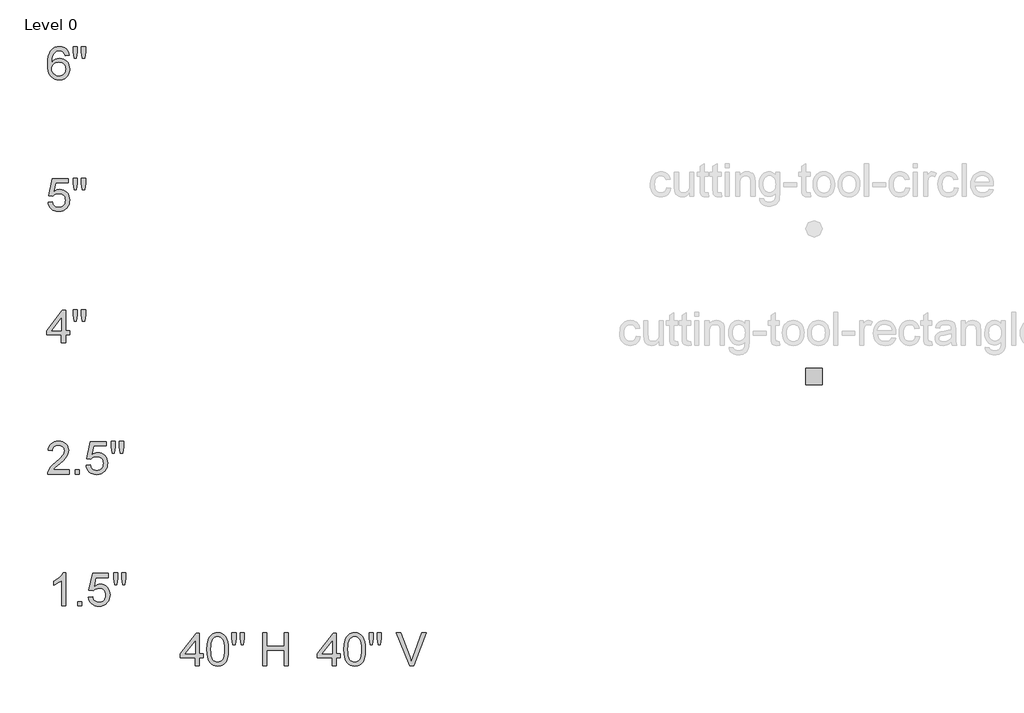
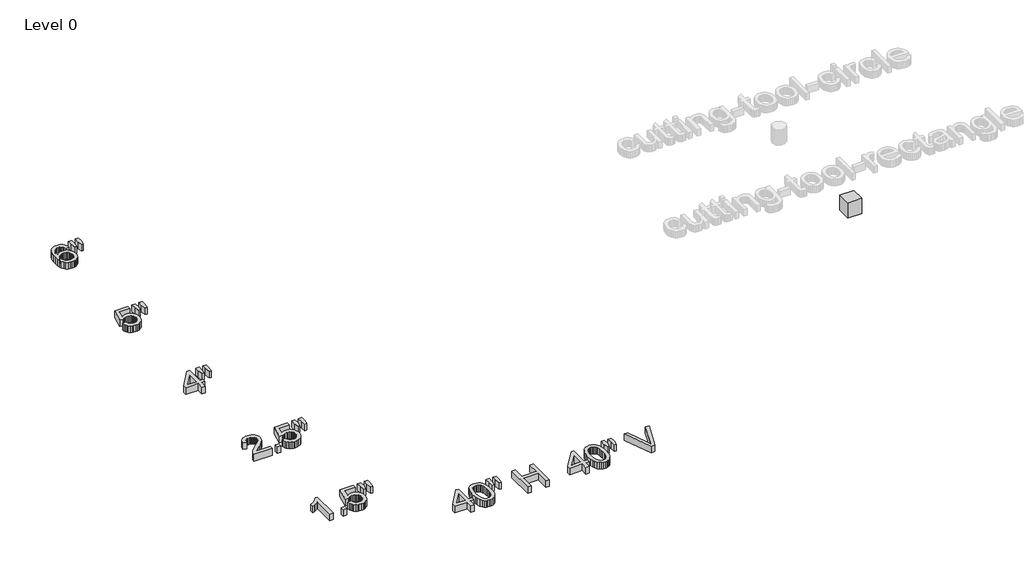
# One storey, part 1 of 3: 8 proxies.
"""IFC4 building model written with IfcOpenShell, lengths in millimetres."""

from ifc_helpers import new_model, si_unit, origin, origin_with_axes, place, context, project, spatial, polyline, outline, extrude, transform, mapped, element, save
from components import kingspan_ks_cutting_tool_rectangle_cutting_tool_rectangle_f435e5aa

model = new_model("IFC4")

# Units and contexts
model_context = context("Model", 3, world=origin())
ifc_project = project(units=[si_unit("LENGTHUNIT", "METRE", prefix="MILLI")], contexts=[model_context])

# Site, building, storey
site = spatial("IfcSite", under=ifc_project)
building = spatial("IfcBuilding", under=site)
storey = spatial("IfcBuildingStorey", under=building, Name="Level 0", Elevation=0.0)

# Proxies
placement = place(None, origin())
element("IfcBuildingElementProxy", 1, Name="24\" Arial", ObjectType="24\" Arial", at=placement, inside=storey, context=model_context, shape_type="SweptSolid", body=[
    extrude(outline(polyline([(-9111.1054643, 2680.3315149), (-9111.1054643, 2823.0973402), (-9387.1193933, 2823.0973402), (-9387.1193933, 2899.2391137), (-9092.0700209, 3279.9479813), (-9034.9636908, 3279.9479813), (-9034.9636908, 2899.2391137), (-8958.8219173, 2899.2391137), (-8958.8219173, 2823.0973402), (-9034.9636908, 2823.0973402), (-9034.9636908, 2680.3315149), (-9111.1054643, 2680.3315149)]), holes=[polyline([(-9111.1054643, 2899.2391137), (-9111.1054643, 3134.5052967), (-9293.4293204, 2899.2391137), (-9111.1054643, 2899.2391137)])]), origin_with_axes(), (0.0, 0.0, 1.0), 152.4),
    extrude(outline(polyline([(-8892.1978655, 2979.9910337), (-8886.6024861, 3077.4919131), (-8879.6082619, 3118.839164), (-8869.816348, 3155.2509557), (-8857.2685704, 3187.0247171), (-8842.006755, 3214.4578768), (-8824.0309017, 3237.5504349), (-8803.3410106, 3256.3023915), (-8779.8673718, 3270.8113403), (-8753.5402754, 3281.1748751), (-8724.3597215, 3287.392996), (-8692.32571, 3289.465703), (-8645.4063163, 3284.5581277), (-8603.3944979, 3269.835402), (-8568.2607206, 3245.8737941), (-8541.9754502, 3213.2495723), (-8522.1220776, 3172.2415761), (-8506.2839938, 3123.128645), (-8495.9111643, 3060.7615429), (-8492.4535545, 2979.9910337), (-8497.9931659, 2883.0478333), (-8504.9176803, 2841.8400021), (-8514.6120003, 2805.4746836), (-8527.0621841, 2773.6869803), (-8542.2542897, 2746.2119947), (-8560.188317, 2723.0497267), (-8580.8642661, 2704.2001763), (-8604.3657889, 2689.5936337), (-8630.7765371, 2679.1603889), (-8660.0965108, 2672.9004421), (-8692.32571, 2670.8137932), (-8734.2631712, 2674.4387067), (-8771.4417715, 2685.3134473), (-8803.861511, 2703.438015), (-8831.5223897, 2728.8124097), (-8858.0679103, 2774.6815079), (-8877.0289965, 2831.8343113), (-8888.4056482, 2900.2708199), (-8892.1978655, 2979.9910337)]), holes=[polyline([(-8816.0560919, 2980.1397481), (-8813.8253759, 2913.9478975), (-8807.1332279, 2860.3688871), (-8795.9796477, 2819.4027168), (-8780.3646356, 2791.0493867), (-8761.4779066, 2771.7583404), (-8740.509176, 2757.9790217), (-8717.4584438, 2749.7114304), (-8692.32571, 2746.9555667), (-8667.1929761, 2749.7207251), (-8644.1422439, 2758.0162003), (-8623.1735133, 2771.8419923), (-8604.2867843, 2791.1981011), (-8588.6717722, 2819.5979044), (-8577.5181921, 2860.5547801), (-8570.826044, 2914.0687279), (-8568.595328, 2980.1397481), (-8570.7516868, 3044.5795571), (-8577.2207633, 3097.2151606), (-8588.0025574, 3138.0465584), (-8603.0970691, 3167.0737506), (-8621.66778, 3187.3082039), (-8642.8781715, 3201.7613848), (-8666.7282436, 3210.4332933), (-8693.2179964, 3213.3239295), (-8718.2206051, 3210.7771954), (-8740.880962, 3203.136993), (-8761.1990671, 3190.4033224), (-8779.1749204, 3172.5761835), (-8795.3104329, 3140.9743732), (-8806.835799, 3098.3676972), (-8813.7510187, 3044.7561555), (-8816.0560919, 2980.1397481)])]), origin_with_axes(), (0.0, 0.0, 1.0), 152.4),
    extrude(outline(polyline([(-8407.2402025, 3070.5581041), (-8425.8295027, 3188.1911956), (-8425.8295027, 3289.465703), (-8349.6877291, 3289.465703), (-8349.6877291, 3188.1911956), (-8366.3437421, 3070.5581041), (-8407.2402025, 3070.5581041)])), origin_with_axes(), (0.0, 0.0, 1.0), 152.4),
    extrude(outline(polyline([(-8255.4027987, 3070.5581041), (-8273.5459556, 3188.1911956), (-8273.5459556, 3289.465703), (-8197.4041821, 3289.465703), (-8197.4041821, 3188.1911956), (-8215.2499103, 3070.5581041), (-8255.4027987, 3070.5581041)])), origin_with_axes(), (0.0, 0.0, 1.0), 152.4),
    extrude(outline(polyline([(-7854.7662013, 2680.3315149), (-7854.7662013, 3289.465703), (-7778.6244278, 3289.465703), (-7778.6244278, 3042.0049391), (-7455.0218903, 3042.0049391), (-7455.0218903, 3289.465703), (-7378.8801168, 3289.465703), (-7378.8801168, 2680.3315149), (-7455.0218903, 2680.3315149), (-7455.0218903, 2965.8631655), (-7778.6244278, 2965.8631655), (-7778.6244278, 2680.3315149), (-7854.7662013, 2680.3315149)])), origin_with_axes(), (0.0, 0.0, 1.0), 152.4),
])
element("IfcBuildingElementProxy", 2, Name="24\" Arial", ObjectType="24\" Arial", at=placement, inside=storey, context=model_context, shape_type="SweptSolid", body=[
    extrude(outline(polyline([(-6571.1054643, 2680.3315149), (-6571.1054643, 2823.0973402), (-6847.1193933, 2823.0973402), (-6847.1193933, 2899.2391137), (-6552.0700209, 3279.9479813), (-6494.9636908, 3279.9479813), (-6494.9636908, 2899.2391137), (-6418.8219173, 2899.2391137), (-6418.8219173, 2823.0973402), (-6494.9636908, 2823.0973402), (-6494.9636908, 2680.3315149), (-6571.1054643, 2680.3315149)]), holes=[polyline([(-6571.1054643, 2899.2391137), (-6571.1054643, 3134.5052967), (-6753.4293204, 2899.2391137), (-6571.1054643, 2899.2391137)])]), origin_with_axes(), (0.0, 0.0, 1.0), 152.4),
    extrude(outline(polyline([(-6352.1978655, 2979.9910337), (-6346.6024861, 3077.4919131), (-6339.6082619, 3118.839164), (-6329.816348, 3155.2509557), (-6317.2685704, 3187.0247171), (-6302.006755, 3214.4578768), (-6284.0309017, 3237.5504349), (-6263.3410106, 3256.3023915), (-6239.8673718, 3270.8113403), (-6213.5402754, 3281.1748751), (-6184.3597215, 3287.392996), (-6152.32571, 3289.465703), (-6105.4063163, 3284.5581277), (-6063.3944979, 3269.835402), (-6028.2607206, 3245.8737941), (-6001.9754502, 3213.2495723), (-5982.1220776, 3172.2415761), (-5966.2839938, 3123.128645), (-5955.9111643, 3060.7615429), (-5952.4535545, 2979.9910337), (-5957.9931659, 2883.0478333), (-5964.9176803, 2841.8400021), (-5974.6120003, 2805.4746836), (-5987.0621841, 2773.6869803), (-6002.2542897, 2746.2119947), (-6020.188317, 2723.0497267), (-6040.8642661, 2704.2001763), (-6064.3657889, 2689.5936337), (-6090.7765371, 2679.1603889), (-6120.0965108, 2672.9004421), (-6152.32571, 2670.8137932), (-6194.2631712, 2674.4387067), (-6231.4417715, 2685.3134473), (-6263.861511, 2703.438015), (-6291.5223897, 2728.8124097), (-6318.0679103, 2774.6815079), (-6337.0289965, 2831.8343113), (-6348.4056482, 2900.2708199), (-6352.1978655, 2979.9910337)]), holes=[polyline([(-6276.0560919, 2980.1397481), (-6273.8253759, 2913.9478975), (-6267.1332279, 2860.3688871), (-6255.9796477, 2819.4027168), (-6240.3646356, 2791.0493867), (-6221.4779066, 2771.7583404), (-6200.509176, 2757.9790217), (-6177.4584438, 2749.7114304), (-6152.32571, 2746.9555667), (-6127.1929761, 2749.7207251), (-6104.1422439, 2758.0162003), (-6083.1735133, 2771.8419923), (-6064.2867843, 2791.1981011), (-6048.6717722, 2819.5979044), (-6037.5181921, 2860.5547801), (-6030.826044, 2914.0687279), (-6028.595328, 2980.1397481), (-6030.7516868, 3044.5795571), (-6037.2207633, 3097.2151606), (-6048.0025574, 3138.0465584), (-6063.0970691, 3167.0737506), (-6081.66778, 3187.3082039), (-6102.8781715, 3201.7613848), (-6126.7282436, 3210.4332933), (-6153.2179964, 3213.3239295), (-6178.2206051, 3210.7771954), (-6200.880962, 3203.136993), (-6221.1990671, 3190.4033224), (-6239.1749204, 3172.5761835), (-6255.3104329, 3140.9743732), (-6266.835799, 3098.3676972), (-6273.7510187, 3044.7561555), (-6276.0560919, 2980.1397481)])]), origin_with_axes(), (0.0, 0.0, 1.0), 152.4),
    extrude(outline(polyline([(-5867.2402025, 3070.5581041), (-5885.8295027, 3188.1911956), (-5885.8295027, 3289.465703), (-5809.6877291, 3289.465703), (-5809.6877291, 3188.1911956), (-5826.3437421, 3070.5581041), (-5867.2402025, 3070.5581041)])), origin_with_axes(), (0.0, 0.0, 1.0), 152.4),
    extrude(outline(polyline([(-5715.4027987, 3070.5581041), (-5733.5459556, 3188.1911956), (-5733.5459556, 3289.465703), (-5657.4041821, 3289.465703), (-5657.4041821, 3188.1911956), (-5675.2499103, 3070.5581041), (-5715.4027987, 3070.5581041)])), origin_with_axes(), (0.0, 0.0, 1.0), 152.4),
    extrude(outline(polyline([(-5134.8217756, 2680.3315149), (-5377.2262499, 3289.465703), (-5295.7307579, 3289.465703), (-5133.483346, 2850.6095045), (-5100.6174633, 2751.7144275), (-5068.1977238, 2850.6095045), (-4905.5041686, 3289.465703), (-4824.0086767, 3289.465703), (-5056.1518572, 2680.3315149), (-5134.8217756, 2680.3315149)])), origin_with_axes(), (0.0, 0.0, 1.0), 152.4),
])
element("IfcBuildingElementProxy", 3, Name="24\" Arial", ObjectType="24\" Arial", at=placement, inside=storey, context=model_context, shape_type="SweptSolid", body=[
    extrude(outline(polyline([(-11504.7389752, 3788.2176186), (-11580.8807487, 3788.2176186), (-11580.8807487, 4262.9139879), (-11612.668452, 4237.2049857), (-11653.0072334, 4211.5331622), (-11695.3536592, 4189.0958769), (-11733.1642957, 4173.0904894), (-11733.1642957, 4245.0682597), (-11673.3625171, 4277.599535), (-11621.5541375, 4316.302458), (-11580.713445, 4357.4591686), (-11553.8147277, 4397.3518067), (-11504.7389752, 4397.3518067), (-11504.7389752, 3788.2176186)])), origin_with_axes(), (0.0, 0.0, 1.0), 152.4),
    extrude(outline(polyline([(-11285.8313763, 3788.2176186), (-11285.8313763, 3864.3593921), (-11209.6896028, 3864.3593921), (-11209.6896028, 3788.2176186), (-11285.8313763, 3788.2176186)])), origin_with_axes(), (0.0, 0.0, 1.0), 152.4),
    extrude(outline(polyline([(-11085.9592209, 3950.0188873), (-11009.8174473, 3959.536609), (-11004.1291215, 3935.059148), (-10995.8382936, 3913.8255199), (-10984.9449637, 3895.8357246), (-10971.4491318, 3881.0897623), (-10955.3786818, 3869.6062221), (-10936.7614976, 3861.4036934), (-10915.5975794, 3856.4821762), (-10891.886927, 3854.8416704), (-10862.8876187, 3857.123507), (-10837.3087417, 3863.9690168), (-10815.1502959, 3875.3781998), (-10796.4122813, 3891.351056), (-10781.5129572, 3911.0975401), (-10770.8705829, 3933.8276069), (-10764.4851583, 3959.5412563), (-10762.3566834, 3988.2384885), (-10764.3503858, 4015.3602774), (-10770.3314932, 4039.4705998), (-10780.3000054, 4060.5694555), (-10794.2559225, 4078.6568445), (-10812.2457177, 4093.1657933), (-10834.3158644, 4103.5293282), (-10860.4663624, 4109.7474491), (-10890.6972118, 4111.8201561), (-10927.6341513, 4108.5112606), (-10957.5443352, 4098.5845743), (-10981.431586, 4083.3785268), (-11000.2997256, 4064.2315476), (-11076.4414992, 4073.7492693), (-11009.8174473, 4387.8340851), (-10714.768075, 4387.8340851), (-10714.768075, 4311.6923115), (-10948.2496852, 4311.6923115), (-10980.8181391, 4143.9424668), (-10953.9473057, 4163.2009817), (-10926.4258467, 4176.9570639), (-10898.2537623, 4185.2107131), (-10869.4310524, 4187.9619296), (-10832.3500459, 4184.550793), (-10798.2898006, 4174.3173832), (-10767.2503167, 4157.2617003), (-10739.231594, 4133.3837443), (-10716.0367947, 4104.1427751), (-10699.4690809, 4070.9980529), (-10689.5284526, 4033.9495776), (-10686.2149099, 3992.9973493), (-10689.1984926, 3953.5508544), (-10698.1492406, 3916.8555758), (-10713.067154, 3882.9115137), (-10733.9522327, 3851.718668), (-10765.5912216, 3819.7729557), (-10802.5095718, 3796.9545897), (-10844.7072832, 3783.2635701), (-10892.1843558, 3778.6998969), (-10931.4774891, 3781.632359), (-10966.9691104, 3790.4297453), (-10998.6592199, 3805.0920558), (-11026.5478175, 3825.6192906), (-11049.7519114, 3850.989038), (-11067.38851, 3880.1788866), (-11079.4576131, 3913.1888364), (-11085.9592209, 3950.0188873)])), origin_with_axes(), (0.0, 0.0, 1.0), 152.4),
    extrude(outline(polyline([(-10601.0015579, 4178.4442079), (-10619.5908581, 4296.0772994), (-10619.5908581, 4397.3518067), (-10543.4490845, 4397.3518067), (-10543.4490845, 4296.0772994), (-10560.1050975, 4178.4442079), (-10601.0015579, 4178.4442079)])), origin_with_axes(), (0.0, 0.0, 1.0), 152.4),
    extrude(outline(polyline([(-10449.1641541, 4178.4442079), (-10467.307311, 4296.0772994), (-10467.307311, 4397.3518067), (-10391.1655375, 4397.3518067), (-10391.1655375, 4296.0772994), (-10409.0112657, 4178.4442079), (-10449.1641541, 4178.4442079)])), origin_with_axes(), (0.0, 0.0, 1.0), 152.4),
])
element("IfcBuildingElementProxy", 4, Name="24\" Arial", ObjectType="24\" Arial", at=placement, inside=storey, context=model_context, shape_type="SweptSolid", body=[
    extrude(outline(polyline([(-11444.0756511, 6305.7218025), (-11444.0756511, 6229.580029), (-11843.8199621, 6229.580029), (-11842.146925, 6256.3857999), (-11835.64067, 6282.0762127), (-11816.8654768, 6323.1027982), (-11789.3904911, 6362.9024899), (-11749.6465674, 6404.5611115), (-11694.0645598, 6451.1644871), (-11611.8998531, 6524.1460796), (-11562.601029, 6578.0178715), (-11548.2222053, 6600.0276029), (-11537.951617, 6621.7399055), (-11531.789264, 6643.1547793), (-11529.7351463, 6664.2722243), (-11531.6730808, 6684.1395389), (-11537.4868845, 6702.398879), (-11547.1765572, 6719.0502446), (-11560.742099, 6734.0936358), (-11577.4306432, 6746.5531142), (-11596.4893232, 6755.4527417), (-11617.918139, 6760.7925181), (-11641.7170906, 6762.5724436), (-11666.7894092, 6760.8343441), (-11689.2127525, 6755.6200454), (-11708.9871206, 6746.9295475), (-11726.1125133, 6734.7628506), (-11739.9661893, 6719.5289191), (-11749.9254069, 6701.6367176), (-11755.9901661, 6681.0862463), (-11758.1604669, 6657.877505), (-11834.3022404, 6667.3952267), (-11827.7541594, 6706.7023019), (-11815.8430653, 6741.046034), (-11798.5689581, 6770.4264229), (-11775.9318378, 6794.8434687), (-11748.4522048, 6814.0369212), (-11716.6505596, 6827.74653), (-11680.526902, 6835.9722954), (-11640.0812321, 6838.7142171), (-11599.2730709, 6835.6655719), (-11562.9542257, 6826.5196362), (-11531.1246965, 6811.2764101), (-11503.7844833, 6789.9358935), (-11481.8258724, 6764.0781769), (-11466.1411504, 6735.283351), (-11456.7303172, 6703.5514156), (-11453.5933728, 6668.8823707), (-11456.9766254, 6632.4659317), (-11467.1263833, 6596.6815289), (-11485.1394152, 6560.2836791), (-11512.1124897, 6522.0268994), (-11555.109541, 6476.3529888), (-11621.1945032, 6417.7037468), (-11708.7872856, 6344.4619041), (-11743.1403123, 6305.7218025), (-11444.0756511, 6305.7218025)])), origin_with_axes(), (0.0, 0.0, 1.0), 152.4),
    extrude(outline(polyline([(-11329.8629908, 6229.580029), (-11329.8629908, 6305.7218025), (-11253.7212173, 6305.7218025), (-11253.7212173, 6229.580029), (-11329.8629908, 6229.580029)])), origin_with_axes(), (0.0, 0.0, 1.0), 152.4),
    extrude(outline(polyline([(-11129.9908353, 6391.3812977), (-11053.8490618, 6400.8990194), (-11048.160736, 6376.4215584), (-11039.8699081, 6355.1879303), (-11028.9765782, 6337.198135), (-11015.4807463, 6322.4521727), (-10999.4102963, 6310.9686325), (-10980.7931121, 6302.7661038), (-10959.6291939, 6297.8445866), (-10935.9185415, 6296.2040808), (-10906.9192332, 6298.4859174), (-10881.3403562, 6305.3314272), (-10859.1819104, 6316.7406102), (-10840.4438958, 6332.7134664), (-10825.5445717, 6352.4599505), (-10814.9021974, 6375.1900173), (-10808.5167728, 6400.9036667), (-10806.3882979, 6429.6008989), (-10808.3820003, 6456.7226878), (-10814.3631077, 6480.8330102), (-10824.3316199, 6501.9318659), (-10838.287537, 6520.0192549), (-10856.2773322, 6534.5282037), (-10878.3474789, 6544.8917386), (-10904.4979769, 6551.1098595), (-10934.7288263, 6553.1825664), (-10971.6657657, 6549.873671), (-11001.5759497, 6539.9469847), (-11025.4632005, 6524.7409372), (-11044.3313401, 6505.593958), (-11120.4731136, 6515.1116797), (-11053.8490618, 6829.1964954), (-10758.7996894, 6829.1964954), (-10758.7996894, 6753.0547219), (-10992.2812996, 6753.0547219), (-11024.8497535, 6585.3048772), (-10997.9789201, 6604.5633921), (-10970.4574612, 6618.3194743), (-10942.2853768, 6626.5731235), (-10913.4626669, 6629.32434), (-10876.3816604, 6625.9132034), (-10842.3214151, 6615.6797936), (-10811.2819312, 6598.6241107), (-10783.2632085, 6574.7461547), (-10760.0684092, 6545.5051855), (-10743.5006954, 6512.3604633), (-10733.5600671, 6475.311988), (-10730.2465244, 6434.3597597), (-10733.230107, 6394.9132648), (-10742.1808551, 6358.2179862), (-10757.0987685, 6324.2739241), (-10777.9838472, 6293.0810784), (-10809.6228361, 6261.135366), (-10846.5411863, 6238.3170001), (-10888.7388977, 6224.6259805), (-10936.2159703, 6220.0623073), (-10975.5091036, 6222.9947694), (-11011.0007249, 6231.7921557), (-11042.6908344, 6246.4544662), (-11070.579432, 6266.981701), (-11093.7835259, 6292.3514484), (-11111.4201245, 6321.541297), (-11123.4892276, 6354.5512468), (-11129.9908353, 6391.3812977)])), origin_with_axes(), (0.0, 0.0, 1.0), 152.4),
    extrude(outline(polyline([(-10645.0331724, 6619.8066183), (-10663.6224725, 6737.4397098), (-10663.6224725, 6838.7142171), (-10587.480699, 6838.7142171), (-10587.480699, 6737.4397098), (-10604.136712, 6619.8066183), (-10645.0331724, 6619.8066183)])), origin_with_axes(), (0.0, 0.0, 1.0), 152.4),
    extrude(outline(polyline([(-10493.1957685, 6619.8066183), (-10511.3389255, 6737.4397098), (-10511.3389255, 6838.7142171), (-10435.197152, 6838.7142171), (-10435.197152, 6737.4397098), (-10453.0428802, 6619.8066183), (-10493.1957685, 6619.8066183)])), origin_with_axes(), (0.0, 0.0, 1.0), 152.4),
])
element("IfcBuildingElementProxy", 5, Name="24\" Arial", ObjectType="24\" Arial", at=placement, inside=storey, context=model_context, shape_type="SweptSolid", body=[
    extrude(outline(polyline([(-11586.8414764, 8667.980029), (-11586.8414764, 8810.7458543), (-11862.8554054, 8810.7458543), (-11862.8554054, 8886.8876279), (-11567.8060331, 9267.5964954), (-11510.6997029, 9267.5964954), (-11510.6997029, 8886.8876279), (-11434.5579294, 8886.8876279), (-11434.5579294, 8810.7458543), (-11510.6997029, 8810.7458543), (-11510.6997029, 8667.980029), (-11586.8414764, 8667.980029)]), holes=[polyline([(-11586.8414764, 8886.8876279), (-11586.8414764, 9122.1538109), (-11769.1653326, 8886.8876279), (-11586.8414764, 8886.8876279)])]), origin_with_axes(), (0.0, 0.0, 1.0), 152.4),
    extrude(outline(polyline([(-11349.3445774, 9058.2066183), (-11367.9338776, 9175.8397098), (-11367.9338776, 9277.1142171), (-11291.7921041, 9277.1142171), (-11291.7921041, 9175.8397098), (-11308.448117, 9058.2066183), (-11349.3445774, 9058.2066183)])), origin_with_axes(), (0.0, 0.0, 1.0), 152.4),
    extrude(outline(polyline([(-11197.5071736, 9058.2066183), (-11215.6503305, 9175.8397098), (-11215.6503305, 9277.1142171), (-11139.508557, 9277.1142171), (-11139.508557, 9175.8397098), (-11157.3542852, 9058.2066183), (-11197.5071736, 9058.2066183)])), origin_with_axes(), (0.0, 0.0, 1.0), 152.4),
])
element("IfcBuildingElementProxy", 6, Name="24\" Arial", ObjectType="24\" Arial", at=placement, inside=storey, context=model_context, shape_type="SweptSolid", body=[
    extrude(outline(polyline([(-11834.3022404, 11268.1812977), (-11758.1604669, 11277.6990194), (-11752.472141, 11253.2215584), (-11744.1813131, 11231.9879303), (-11733.2879832, 11213.998135), (-11719.7921513, 11199.2521727), (-11703.7217013, 11187.7686325), (-11685.1045172, 11179.5661038), (-11663.9405989, 11174.6445866), (-11640.2299465, 11173.0040808), (-11611.2306383, 11175.2859174), (-11585.6517612, 11182.1314272), (-11563.4933154, 11193.5406102), (-11544.7553008, 11209.5134664), (-11529.8559768, 11229.2599505), (-11519.2136024, 11251.9900173), (-11512.8281778, 11277.7036667), (-11510.6997029, 11306.4008989), (-11512.6934054, 11333.5226878), (-11518.6745127, 11357.6330102), (-11528.6430249, 11378.7318659), (-11542.598942, 11396.8192549), (-11560.5887373, 11411.3282037), (-11582.6588839, 11421.6917386), (-11608.8093819, 11427.9098595), (-11639.0402313, 11429.9825664), (-11675.9771708, 11426.673671), (-11705.8873548, 11416.7469847), (-11729.7746055, 11401.5409372), (-11748.6427452, 11382.393958), (-11824.7845187, 11391.9116797), (-11758.1604669, 11705.9964954), (-11463.1110945, 11705.9964954), (-11463.1110945, 11629.8547219), (-11696.5927047, 11629.8547219), (-11729.1611586, 11462.1048772), (-11702.2903252, 11481.3633921), (-11674.7688663, 11495.1194743), (-11646.5967818, 11503.3731235), (-11617.7740719, 11506.12434), (-11580.6930654, 11502.7132034), (-11546.6328202, 11492.4797936), (-11515.5933362, 11475.4241107), (-11487.5746135, 11451.5461547), (-11464.3798142, 11422.3051855), (-11447.8121004, 11389.1604633), (-11437.8714722, 11352.111988), (-11434.5579294, 11311.1597597), (-11437.5415121, 11271.7132648), (-11446.4922601, 11235.0179862), (-11461.4101735, 11201.0739241), (-11482.2952523, 11169.8810784), (-11513.9342412, 11137.935366), (-11550.8525913, 11115.1170001), (-11593.0503027, 11101.4259805), (-11640.5273753, 11096.8623073), (-11679.8205086, 11099.7947694), (-11715.3121299, 11108.5921557), (-11747.0022394, 11123.2544662), (-11774.890837, 11143.781701), (-11798.094931, 11169.1514484), (-11815.7315295, 11198.341297), (-11827.8006326, 11231.3512468), (-11834.3022404, 11268.1812977)])), origin_with_axes(), (0.0, 0.0, 1.0), 152.4),
    extrude(outline(polyline([(-11349.3445774, 11496.6066183), (-11367.9338776, 11614.2397098), (-11367.9338776, 11715.5142171), (-11291.7921041, 11715.5142171), (-11291.7921041, 11614.2397098), (-11308.448117, 11496.6066183), (-11349.3445774, 11496.6066183)])), origin_with_axes(), (0.0, 0.0, 1.0), 152.4),
    extrude(outline(polyline([(-11197.5071736, 11496.6066183), (-11215.6503305, 11614.2397098), (-11215.6503305, 11715.5142171), (-11139.508557, 11715.5142171), (-11139.508557, 11614.2397098), (-11157.3542852, 11496.6066183), (-11197.5071736, 11496.6066183)])), origin_with_axes(), (0.0, 0.0, 1.0), 152.4),
])
element("IfcBuildingElementProxy", 7, Name="24\" Arial", ObjectType="24\" Arial", at=placement, inside=storey, context=model_context, shape_type="SweptSolid", body=[
    extrude(outline(polyline([(-11444.0756511, 13992.1129484), (-11520.2174246, 13982.5952267), (-11532.4863627, 14020.3315061), (-11549.0680185, 14046.0962761), (-11565.4358973, 14059.9545994), (-11583.6069382, 14069.8534017), (-11603.5811412, 14075.7926832), (-11625.3585064, 14077.7724436), (-11660.7525339, 14073.1622972), (-11694.0645598, 14059.3318578), (-11722.6734928, 14030.2024245), (-11746.0402431, 13990.105304), (-11755.1722368, 13964.5310743), (-11761.822559, 13933.3893492), (-11767.6781885, 13854.4034127), (-11737.1359684, 13890.0391012), (-11700.5336363, 13915.1532457), (-11659.9160154, 13930.0432751), (-11617.3279287, 13935.0066183), (-11580.744186, 13931.614071), (-11546.9860169, 13921.4364291), (-11516.0534214, 13904.4736927), (-11487.9463995, 13880.7258618), (-11464.5889438, 13851.605723), (-11447.9050469, 13818.5260634), (-11437.8947088, 13781.4868828), (-11434.5579294, 13740.4881812), (-11436.1287253, 13712.7297088), (-11440.8411129, 13685.9657638), (-11448.6950922, 13660.1963465), (-11459.6906632, 13635.4214567), (-11473.4374507, 13612.5659121), (-11489.5450793, 13592.5545305), (-11508.013549, 13575.3873117), (-11528.8428599, 13561.064256), (-11551.5868687, 13549.7759034), (-11575.7994321, 13541.7127945), (-11601.4805503, 13536.8749291), (-11628.6302232, 13535.2623073), (-11674.0206469, 13539.5378464), (-11715.0147011, 13552.3644635), (-11751.6123859, 13573.7421587), (-11783.8137011, 13603.670932), (-11810.0664403, 13643.4148557), (-11828.8183968, 13694.2380024), (-11840.0695707, 13756.140372), (-11843.8199621, 13829.1219645), (-11839.6559588, 13910.9427692), (-11827.1639491, 13980.7734753), (-11806.3439329, 14038.6140828), (-11792.8109224, 14063.0380996), (-11777.1959102, 14084.4645917), (-11745.6033946, 14114.8488028), (-11708.9731786, 14136.5518108), (-11667.3052622, 14149.5736155), (-11620.5996456, 14153.9142171), (-11585.5309308, 14151.2280633), (-11553.7897007, 14143.1696016), (-11525.3759554, 14129.7388323), (-11500.2896948, 14110.9357551), (-11479.2094284, 14087.3924065), (-11462.8136657, 14059.7408225), (-11451.1024066, 14027.9810031), (-11444.0756511, 13992.1129484)]), holes=[polyline([(-11767.6781885, 13741.6778965), (-11763.2725244, 13707.9383166), (-11750.055532, 13675.7230594), (-11729.5329446, 13648.0250022), (-11703.2104955, 13627.8370222), (-11671.4413815, 13615.5123162), (-11634.5787993, 13611.4040808), (-11608.1122832, 13613.5325557), (-11584.3319209, 13619.9179803), (-11563.2377125, 13630.5603547), (-11544.829658, 13645.4596788), (-11529.8978027, 13664.0118003), (-11519.2321917, 13685.6125671), (-11512.8328251, 13710.2619792), (-11510.6997029, 13737.9600364), (-11512.8049412, 13764.5752669), (-11519.1206559, 13788.2069148), (-11529.6468471, 13808.85498), (-11544.3835148, 13826.5194625), (-11562.8473372, 13840.6705672), (-11584.5549925, 13850.7784992), (-11609.5064807, 13856.8432584), (-11637.7018017, 13858.8648448), (-11663.8151211, 13856.8432584), (-11687.8743229, 13850.7784992), (-11709.879407, 13840.6705672), (-11729.8303734, 13826.5194625), (-11746.3887925, 13809.0873462), (-11758.2162348, 13789.1363798), (-11765.3127001, 13766.6665632), (-11767.6781885, 13741.6778965)])]), origin_with_axes(), (0.0, 0.0, 1.0), 152.4),
    extrude(outline(polyline([(-11349.3445774, 13935.0066183), (-11367.9338776, 14052.6397098), (-11367.9338776, 14153.9142171), (-11291.7921041, 14153.9142171), (-11291.7921041, 14052.6397098), (-11308.448117, 13935.0066183), (-11349.3445774, 13935.0066183)])), origin_with_axes(), (0.0, 0.0, 1.0), 152.4),
    extrude(outline(polyline([(-11197.5071736, 13935.0066183), (-11215.6503305, 14052.6397098), (-11215.6503305, 14153.9142171), (-11139.508557, 14153.9142171), (-11139.508557, 14052.6397098), (-11157.3542852, 13935.0066183), (-11197.5071736, 13935.0066183)])), origin_with_axes(), (0.0, 0.0, 1.0), 152.4),
])
kingspan_ks_cutting_tool_rectangle_cutting_tool_rectangle_shape = kingspan_ks_cutting_tool_rectangle_cutting_tool_rectangle_f435e5aa(model_context)
element("IfcBuildingElementProxy", 8, Name="kingspan-ks-cutting-tool-rectangle : cutting-tool-rectangle", ObjectType="kingspan-ks-cutting-tool-rectangle : cutting-tool-rectangle", at=placement, inside=storey, context=model_context, shape_type="MappedRepresentation", body=[
    mapped(kingspan_ks_cutting_tool_rectangle_cutting_tool_rectangle_shape, transform((2362.8656754, 8040.7518733, 0.0), x_axis=(1.0, 0.0, 0.0), y_axis=(0.0, 1.0, 0.0), z_axis=(0.0, 0.0, 1.0))),
])

save(model, "model.ifc")
